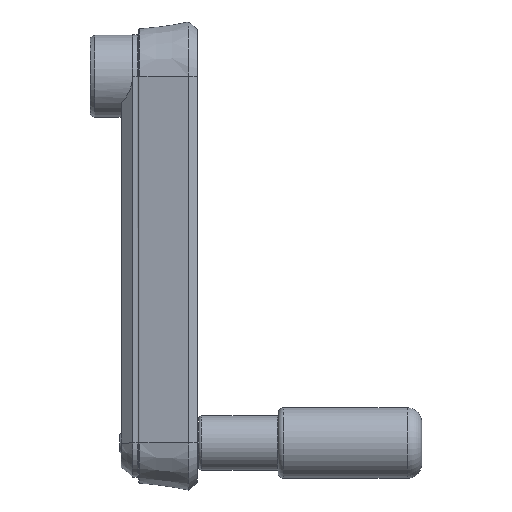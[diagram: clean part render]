
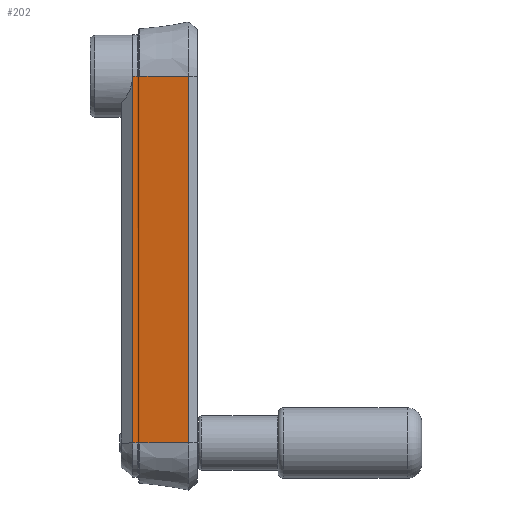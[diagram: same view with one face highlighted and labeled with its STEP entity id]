
A CAD part, top view. The second image highlights one B-rep face of the part: STEP entity #202.
In plain terms, the highlighted free-form (B-spline) face has degree [3, 1] with [12, 2] control points.
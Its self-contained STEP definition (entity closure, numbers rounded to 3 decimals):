
#202 = ADVANCED_FACE( '', ( #340 ), #341, .T. );
#340 = FACE_OUTER_BOUND( '', #584, .T. );
#341 = B_SPLINE_SURFACE_WITH_KNOTS( '', 3, 1, ( ( #585, #586 ), ( #587, #588 ), ( #589, #590 ), ( #591, #592 ), ( #593, #594 ), ( #595, #596 ), ( #597, #598 ), ( #599, #600 ), ( #601, #602 ), ( #603, #604 ), ( #605, #606 ), ( #607, #608 ) ), .UNSPECIFIED., .F., .F., .F., ( 4, 2, 2, 2, 2, 4 ), ( 2, 2 ), ( 0., 0.072, 0.11, 0.162, 0.196, 1. ), ( 0., 1. ), .UNSPECIFIED. );
#584 = EDGE_LOOP( '', ( #985, #986, #987, #988, #989, #990, #991, #992, #993, #994, #995, #996 ) );
#585 = CARTESIAN_POINT( '', ( -1.2, -125., 11.574 ) );
#586 = CARTESIAN_POINT( '', ( -1.2, 0., 14.1 ) );
#587 = CARTESIAN_POINT( '', ( -0.7, -125., 11.574 ) );
#588 = CARTESIAN_POINT( '', ( -0.7, 0., 14.1 ) );
#589 = CARTESIAN_POINT( '', ( -0.2, -125., 11.574 ) );
#590 = CARTESIAN_POINT( '', ( -0.2, 0., 14.1 ) );
#591 = CARTESIAN_POINT( '', ( 0.562, -125., 11.574 ) );
#592 = CARTESIAN_POINT( '', ( 0.562, 0., 14.1 ) );
#593 = CARTESIAN_POINT( '', ( 0.8, -125., 11.81 ) );
#594 = CARTESIAN_POINT( '', ( 0.8, 0., 14.34 ) );
#595 = CARTESIAN_POINT( '', ( 0.8, -125., 12.439 ) );
#596 = CARTESIAN_POINT( '', ( 0.8, 0., 14.96 ) );
#597 = CARTESIAN_POINT( '', ( 0.8, -125., 12.811 ) );
#598 = CARTESIAN_POINT( '', ( 0.8, 0., 15.313 ) );
#599 = CARTESIAN_POINT( '', ( 0.8, -125., 13.417 ) );
#600 = CARTESIAN_POINT( '', ( 0.8, 0., 15.91 ) );
#601 = CARTESIAN_POINT( '', ( 0.994, -125., 13.639 ) );
#602 = CARTESIAN_POINT( '', ( 0.994, 0., 16.135 ) );
#603 = CARTESIAN_POINT( '', ( 6.755, -125., 14.448 ) );
#604 = CARTESIAN_POINT( '', ( 6.758, 0., 16.945 ) );
#605 = CARTESIAN_POINT( '', ( 12.275, -125., 15.224 ) );
#606 = CARTESIAN_POINT( '', ( 12.291, 0., 17.723 ) );
#607 = CARTESIAN_POINT( '', ( 17.797, -125., 16. ) );
#608 = CARTESIAN_POINT( '', ( 17.821, 0., 18.5 ) );
#985 = ORIENTED_EDGE( '', *, *, #1508, .T. );
#986 = ORIENTED_EDGE( '', *, *, #1509, .F. );
#987 = ORIENTED_EDGE( '', *, *, #1510, .F. );
#988 = ORIENTED_EDGE( '', *, *, #1495, .F. );
#989 = ORIENTED_EDGE( '', *, *, #1511, .F. );
#990 = ORIENTED_EDGE( '', *, *, #1491, .F. );
#991 = ORIENTED_EDGE( '', *, *, #1512, .F. );
#992 = ORIENTED_EDGE( '', *, *, #1513, .F. );
#993 = ORIENTED_EDGE( '', *, *, #1514, .F. );
#994 = ORIENTED_EDGE( '', *, *, #1515, .F. );
#995 = ORIENTED_EDGE( '', *, *, #1516, .T. );
#996 = ORIENTED_EDGE( '', *, *, #1517, .F. );
#1491 = EDGE_CURVE( '', #1756, #1759, #1760, .T. );
#1495 = EDGE_CURVE( '', #1764, #1767, #1768, .T. );
#1508 = EDGE_CURVE( '', #1790, #1791, #1792, .T. );
#1509 = EDGE_CURVE( '', #1793, #1791, #1794, .T. );
#1510 = EDGE_CURVE( '', #1767, #1793, #1795, .T. );
#1511 = EDGE_CURVE( '', #1759, #1764, #1796, .T. );
#1512 = EDGE_CURVE( '', #1797, #1756, #1798, .T. );
#1513 = EDGE_CURVE( '', #1799, #1797, #1800, .T. );
#1514 = EDGE_CURVE( '', #1801, #1799, #1802, .T. );
#1515 = EDGE_CURVE( '', #1803, #1801, #1804, .T. );
#1516 = EDGE_CURVE( '', #1803, #1805, #1806, .T. );
#1517 = EDGE_CURVE( '', #1790, #1805, #1807, .T. );
#1756 = VERTEX_POINT( '', #2196 );
#1759 = VERTEX_POINT( '', #2200 );
#1760 = B_SPLINE_CURVE_WITH_KNOTS( '', 3, ( #2201, #2202, #2203, #2204 ), .UNSPECIFIED., .F., .F., ( 4, 4 ), ( 0., 1. ), .UNSPECIFIED. );
#1764 = VERTEX_POINT( '', #2211 );
#1767 = VERTEX_POINT( '', #2214 );
#1768 = B_SPLINE_CURVE_WITH_KNOTS( '', 1, ( #2215, #2216 ), .UNSPECIFIED., .F., .F., ( 2, 2 ), ( 0., 1. ), .UNSPECIFIED. );
#1790 = VERTEX_POINT( '', #2271 );
#1791 = VERTEX_POINT( '', #2272 );
#1792 = B_SPLINE_CURVE_WITH_KNOTS( '', 1, ( #2273, #2274 ), .UNSPECIFIED., .F., .F., ( 2, 2 ), ( 0., 1. ), .UNSPECIFIED. );
#1793 = VERTEX_POINT( '', #2275 );
#1794 = B_SPLINE_CURVE_WITH_KNOTS( '', 3, ( #2276, #2277, #2278, #2279 ), .UNSPECIFIED., .F., .F., ( 4, 4 ), ( 0., 1. ), .UNSPECIFIED. );
#1795 = B_SPLINE_CURVE_WITH_KNOTS( '', 3, ( #2280, #2281, #2282, #2283, #2284, #2285 ), .UNSPECIFIED., .F., .F., ( 4, 2, 4 ), ( 0., 0.5, 1. ), .UNSPECIFIED. );
#1796 = B_SPLINE_CURVE_WITH_KNOTS( '', 3, ( #2286, #2287, #2288, #2289, #2290, #2291 ), .UNSPECIFIED., .F., .F., ( 4, 2, 4 ), ( 0., 0.5, 1. ), .UNSPECIFIED. );
#1797 = VERTEX_POINT( '', #2292 );
#1798 = B_SPLINE_CURVE_WITH_KNOTS( '', 1, ( #2293, #2294 ), .UNSPECIFIED., .F., .F., ( 2, 2 ), ( 0., 1. ), .UNSPECIFIED. );
#1799 = VERTEX_POINT( '', #2295 );
#1800 = B_SPLINE_CURVE_WITH_KNOTS( '', 3, ( #2296, #2297, #2298, #2299 ), .UNSPECIFIED., .F., .F., ( 4, 4 ), ( 0., 1. ), .UNSPECIFIED. );
#1801 = VERTEX_POINT( '', #2300 );
#1802 = B_SPLINE_CURVE_WITH_KNOTS( '', 3, ( #2301, #2302, #2303, #2304, #2305, #2306 ), .UNSPECIFIED., .F., .F., ( 4, 2, 4 ), ( 0., 0.5, 1. ), .UNSPECIFIED. );
#1803 = VERTEX_POINT( '', #2307 );
#1804 = B_SPLINE_CURVE_WITH_KNOTS( '', 1, ( #2308, #2309 ), .UNSPECIFIED., .F., .F., ( 2, 2 ), ( 0., 1. ), .UNSPECIFIED. );
#1805 = VERTEX_POINT( '', #2310 );
#1806 = B_SPLINE_CURVE_WITH_KNOTS( '', 3, ( #2311, #2312, #2313, #2314 ), .UNSPECIFIED., .F., .F., ( 4, 4 ), ( 0.162, 0.196 ), .UNSPECIFIED. );
#1807 = B_SPLINE_CURVE_WITH_KNOTS( '', 3, ( #2315, #2316, #2317, #2318 ), .UNSPECIFIED., .F., .F., ( 4, 4 ), ( 0., 1. ), .UNSPECIFIED. );
#2196 = CARTESIAN_POINT( '', ( -1.2, 0., 14.1 ) );
#2200 = CARTESIAN_POINT( '', ( 0.3, 0., 14.1 ) );
#2201 = CARTESIAN_POINT( '', ( -1.2, 0., 14.1 ) );
#2202 = CARTESIAN_POINT( '', ( -0.7, 0., 14.1 ) );
#2203 = CARTESIAN_POINT( '', ( -0.2, 0., 14.1 ) );
#2204 = CARTESIAN_POINT( '', ( 0.3, 0., 14.1 ) );
#2211 = CARTESIAN_POINT( '', ( 0.8, 0., 14.6 ) );
#2214 = CARTESIAN_POINT( '', ( 0.8, 0., 15.673 ) );
#2215 = CARTESIAN_POINT( '', ( 0.8, 0., 14.6 ) );
#2216 = CARTESIAN_POINT( '', ( 0.8, 0., 15.673 ) );
#2271 = CARTESIAN_POINT( '', ( 17.797, -125., 16. ) );
#2272 = CARTESIAN_POINT( '', ( 17.821, 0., 18.5 ) );
#2273 = CARTESIAN_POINT( '', ( 17.797, -125., 16. ) );
#2274 = CARTESIAN_POINT( '', ( 17.821, 0., 18.5 ) );
#2275 = CARTESIAN_POINT( '', ( 1.23, 0., 16.168 ) );
#2276 = CARTESIAN_POINT( '', ( 1.23, 0., 16.168 ) );
#2277 = CARTESIAN_POINT( '', ( 6.76, 0., 16.946 ) );
#2278 = CARTESIAN_POINT( '', ( 12.291, 0., 17.723 ) );
#2279 = CARTESIAN_POINT( '', ( 17.821, 0., 18.5 ) );
#2280 = CARTESIAN_POINT( '', ( 0.8, 0., 15.673 ) );
#2281 = CARTESIAN_POINT( '', ( 0.8, 0., 15.793 ) );
#2282 = CARTESIAN_POINT( '', ( 0.844, 0., 15.911 ) );
#2283 = CARTESIAN_POINT( '', ( 1.001, 0., 16.091 ) );
#2284 = CARTESIAN_POINT( '', ( 1.112, 0., 16.152 ) );
#2285 = CARTESIAN_POINT( '', ( 1.23, 0., 16.168 ) );
#2286 = CARTESIAN_POINT( '', ( 0.3, 0., 14.1 ) );
#2287 = CARTESIAN_POINT( '', ( 0.431, 0., 14.1 ) );
#2288 = CARTESIAN_POINT( '', ( 0.561, 0., 14.154 ) );
#2289 = CARTESIAN_POINT( '', ( 0.746, 0., 14.339 ) );
#2290 = CARTESIAN_POINT( '', ( 0.8, 0., 14.469 ) );
#2291 = CARTESIAN_POINT( '', ( 0.8, 0., 14.6 ) );
#2292 = CARTESIAN_POINT( '', ( -1.2, -125., 11.574 ) );
#2293 = CARTESIAN_POINT( '', ( -1.2, -125., 11.574 ) );
#2294 = CARTESIAN_POINT( '', ( -1.2, 0., 14.1 ) );
#2295 = CARTESIAN_POINT( '', ( 0.3, -125., 11.574 ) );
#2296 = CARTESIAN_POINT( '', ( 0.3, -125., 11.574 ) );
#2297 = CARTESIAN_POINT( '', ( -0.2, -125., 11.574 ) );
#2298 = CARTESIAN_POINT( '', ( -0.7, -125., 11.574 ) );
#2299 = CARTESIAN_POINT( '', ( -1.2, -125., 11.574 ) );
#2300 = CARTESIAN_POINT( '', ( 0.8, -125., 12.074 ) );
#2301 = CARTESIAN_POINT( '', ( 0.8, -125., 12.074 ) );
#2302 = CARTESIAN_POINT( '', ( 0.8, -125., 11.943 ) );
#2303 = CARTESIAN_POINT( '', ( 0.746, -125., 11.813 ) );
#2304 = CARTESIAN_POINT( '', ( 0.561, -125., 11.627 ) );
#2305 = CARTESIAN_POINT( '', ( 0.431, -125., 11.574 ) );
#2306 = CARTESIAN_POINT( '', ( 0.3, -125., 11.574 ) );
#2307 = CARTESIAN_POINT( '', ( 0.8, -125., 13.177 ) );
#2308 = CARTESIAN_POINT( '', ( 0.8, -125., 13.177 ) );
#2309 = CARTESIAN_POINT( '', ( 0.8, -125., 12.074 ) );
#2310 = CARTESIAN_POINT( '', ( 1.23, -125., 13.672 ) );
#2311 = CARTESIAN_POINT( '', ( 0.8, -125., 13.177 ) );
#2312 = CARTESIAN_POINT( '', ( 0.8, -125., 13.417 ) );
#2313 = CARTESIAN_POINT( '', ( 0.994, -125., 13.639 ) );
#2314 = CARTESIAN_POINT( '', ( 1.23, -125., 13.672 ) );
#2315 = CARTESIAN_POINT( '', ( 17.797, -125., 16. ) );
#2316 = CARTESIAN_POINT( '', ( 12.275, -125., 15.224 ) );
#2317 = CARTESIAN_POINT( '', ( 6.753, -125., 14.448 ) );
#2318 = CARTESIAN_POINT( '', ( 1.23, -125., 13.672 ) );
